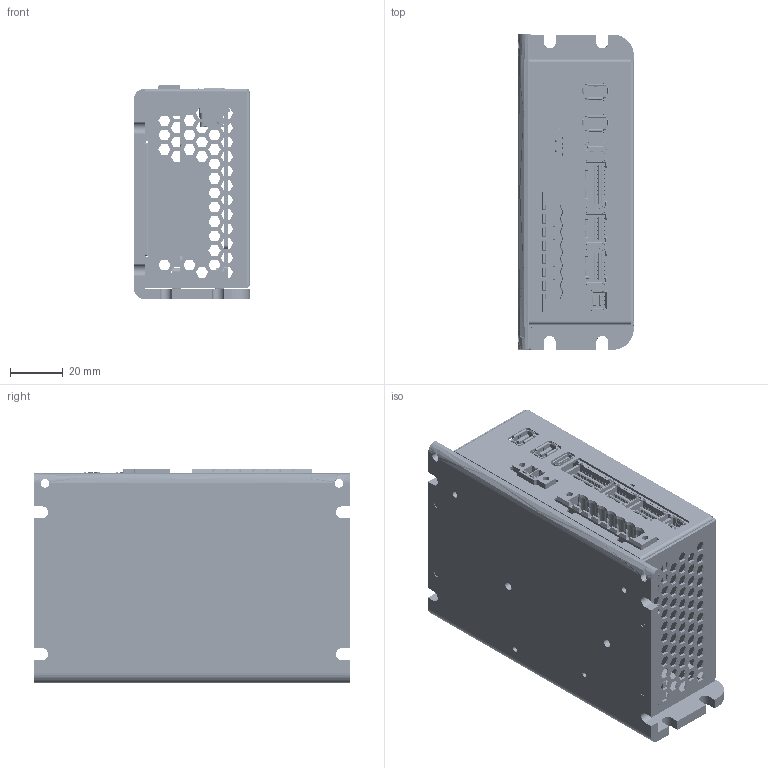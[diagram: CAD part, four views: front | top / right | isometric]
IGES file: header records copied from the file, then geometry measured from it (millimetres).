
Start section: SolidWorks IGES file using analytic representation for surfaces
Global section: file name: C:\Users\yakovs\Desktop\New folder\P-BAS_CAN_L-SHAPE.IGS; native system: SolidWorks 2022; preprocessor: SolidWorks 2022; author: Yakovs; date: 240610.144318; units: millimetre
Bounding box: 44 x 120 x 81.5 mm (x, y, z)
Surface area: 105426 mm2 (no closed solid volume)
Topology: 0 solids, 0 shells, 8830 faces, 72394 edges, 72336 vertices
Faces by surface type: bspline 6914, revolution 1916
